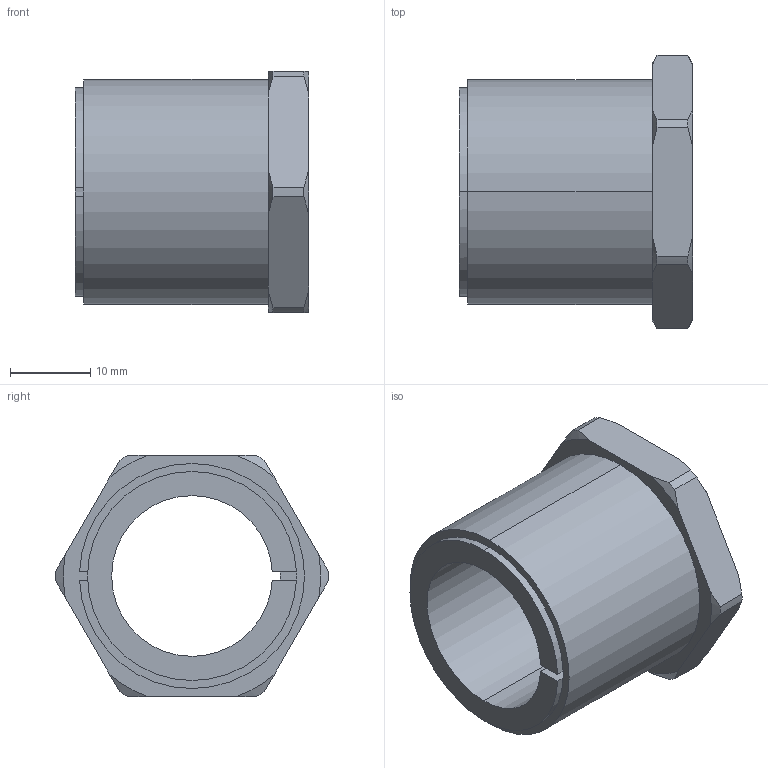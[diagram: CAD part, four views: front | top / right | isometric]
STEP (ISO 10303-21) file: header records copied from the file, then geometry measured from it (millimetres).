
FILE_DESCRIPTION (( 'STEP AP203' ), '1' );
FILE_NAME ('KBS 57 - 20 x 28.STEP', '2015-07-05T18:35:32', ( '' ), ( '' ), 'SwSTEP 2.0', 'SolidWorks 2010', '' );
FILE_SCHEMA (( 'CONFIG_CONTROL_DESIGN' ));
Length unit declared in the file: millimetre
Products named in the file (1): KBS 57 - 20 x 28
Bounding box: 29 x 34 x 30 mm (x, y, z)
Volume: 9290.9 mm3; surface area: 5571.7 mm2
Topology: 1 solids, 1 shells, 47 faces, 130 edges, 86 vertices
Faces by surface type: cylinder 16, plane 16, cone 15
Entity records: 1633 total; most frequent: CARTESIAN_POINT 348, ORIENTED_EDGE 260, DIRECTION 252, EDGE_CURVE 130, AXIS2_PLACEMENT_3D 100, VERTEX_POINT 86, LINE 52, CIRCLE 52
